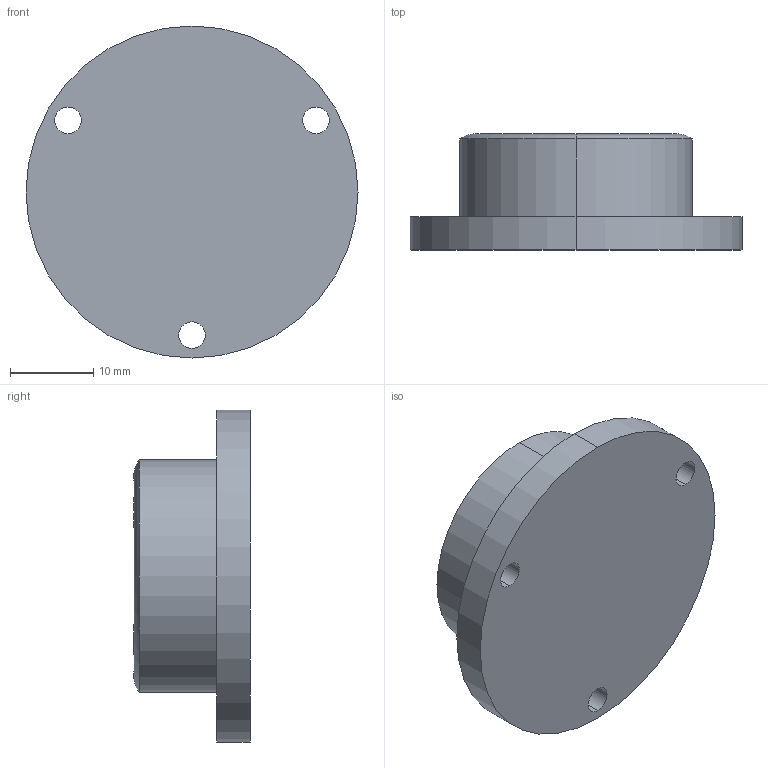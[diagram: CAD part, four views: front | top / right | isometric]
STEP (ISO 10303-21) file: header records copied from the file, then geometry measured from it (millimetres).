
FILE_DESCRIPTION (( 'STEP AP214' ), '1' );
FILE_NAME ('2277-ALN-40-K-30-A.step', '2020-03-26T08:33:02', ( '' ), ( '' ), 'SwSTEP 2.0', 'SolidWorks 2019', '' );
FILE_SCHEMA (( 'AUTOMOTIVE_DESIGN' ));
Length unit declared in the file: millimetre
Products named in the file (1): 2277-ALN-40-K-30-A
Bounding box: 40 x 13.99 x 40 mm (x, y, z)
Volume: 10735.5 mm3; surface area: 3951.6 mm2
Topology: 1 solids, 1 shells, 23 faces, 50 edges, 32 vertices
Faces by surface type: cylinder 16, plane 5, torus 2
Entity records: 725 total; most frequent: DIRECTION 132, CARTESIAN_POINT 106, ORIENTED_EDGE 100, AXIS2_PLACEMENT_3D 58, EDGE_CURVE 50, CIRCLE 34, VERTEX_POINT 32, EDGE_LOOP 32
